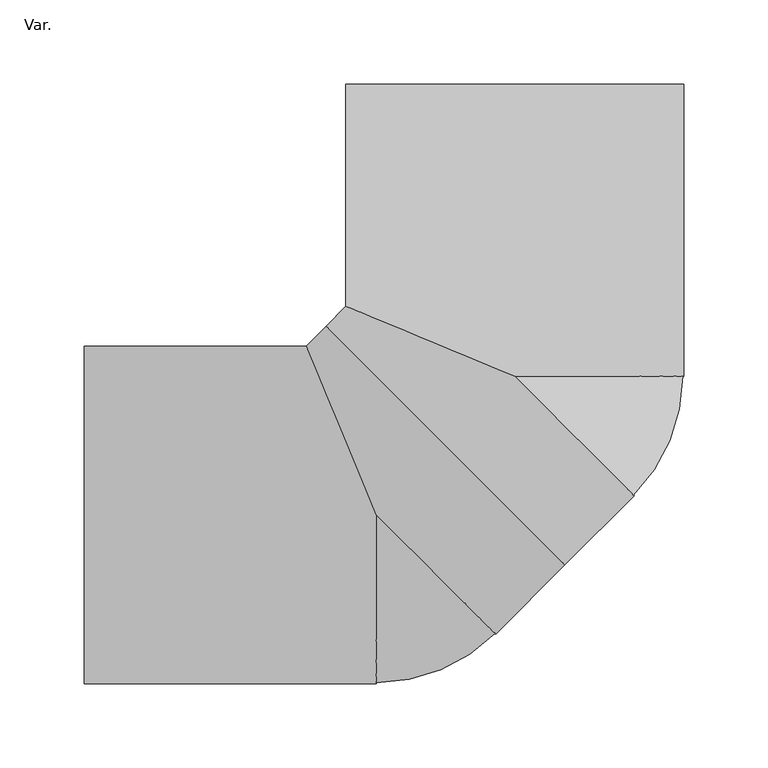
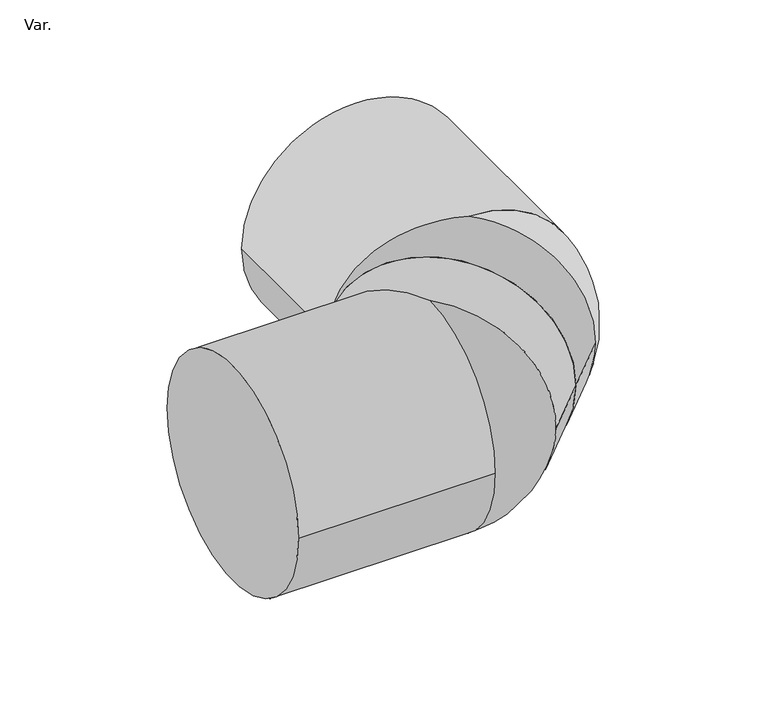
"""IFC4 building model written with IfcOpenShell, lengths in millimetres: pipe fitting geometry, PIF_HDPE assembled elbow 2x 45º_Akatherm : Var.."""

from ifc_helpers import new_model, si_unit, point, frame, origin, place, context, project, spatial, circle_curve, ellipse_curve, trimmed, source, transform, mapped, element, save
from ifc_brep_helpers import plane_surface, cylinder_surface, revolved_surface, advanced_brep


def var_2f964d50(model_context):
    return source(origin(), model_context, "Body", "AdvancedBrep", [
        advanced_brep(
        [(-111.7106781, 111.7106781, 0.0), (29.7106781, -29.7106781, 0.0), (-82.0, 82.0, 57.2363521), (-82.0, 82.0, -57.2363521), (-100.0, 100.0, 0.0), (-100.0, 123.4213562, 0.0), (0.0, 82.0, -100.0), (70.7106781, 11.2893219, 0.0), (0.0, 82.0, 100.0), (-100.0, 82.0, 0.0), (100.0, 255.0, 0.0), (-100.0, 255.0, 0.0), (100.0, 82.0, 0.0)],
        [
            (0, 1, circle_curve(frame((-41.0, 41.0, 0.0), z_axis=(-0.7071067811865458, -0.7071067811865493, 0.0), x_axis=(0.7071067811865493, -0.7071067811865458, 0.0)), 100.0)),
            (1, 0, circle_curve(frame((-41.0, 41.0, 0.0), z_axis=(-0.7071067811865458, -0.7071067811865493, 0.0), x_axis=(0.7071067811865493, -0.7071067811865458, 0.0)), 100.0)),
            (2, 3),
            (3, 4, ellipse_curve(frame((0.0, 0.0, 0.0), z_axis=(0.7071067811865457, 0.7071067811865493, 0.0), x_axis=(0.7071067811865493, -0.7071067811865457, 0.0)), 141.4213562, 100.0)),
            (4, 2, ellipse_curve(frame((0.0, 0.0, 0.0), z_axis=(0.7071067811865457, 0.7071067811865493, 0.0), x_axis=(0.7071067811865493, -0.7071067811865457, 0.0)), 141.4213562, 100.0)),
            (0, 5),
            (5, 6, ellipse_curve(frame((0.0, 82.0, 0.0), z_axis=(-0.38268343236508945, -0.923879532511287, 0.0), x_axis=(0.923879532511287, -0.3826834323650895, 0.0)), 108.23922, 100.0)),
            (6, 7, circle_curve(frame((0.0, 82.0, 0.0), z_axis=(-0.7071067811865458, -0.7071067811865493, 0.0), x_axis=(0.7071067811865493, -0.7071067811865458, 0.0)), 100.0)),
            (7, 1),
            (7, 8, circle_curve(frame((0.0, 82.0, 0.0), z_axis=(-0.7071067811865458, -0.7071067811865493, 0.0), x_axis=(0.7071067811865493, -0.7071067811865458, 0.0)), 100.0)),
            (8, 5, ellipse_curve(frame((0.0, 82.0, 0.0), z_axis=(-0.38268343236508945, -0.923879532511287, 0.0), x_axis=(0.923879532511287, -0.3826834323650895, 0.0)), 108.23922, 100.0)),
            (2, 9, circle_curve(frame((0.0, 82.0, 0.0), z_axis=(0.0, -1.0, 0.0), x_axis=(-1.0, 0.0, 0.0)), 100.0)),
            (9, 3, circle_curve(frame((0.0, 82.0, 0.0), z_axis=(0.0, -1.0, 0.0), x_axis=(-1.0, 0.0, 0.0)), 100.0)),
            (10, 11, circle_curve(frame((0.0, 255.0, 0.0), z_axis=(0.0, 1.0, 0.0), x_axis=(-1.0, 0.0, 0.0)), 100.0)),
            (11, 10, circle_curve(frame((0.0, 255.0, 0.0), z_axis=(0.0, 1.0, 0.0), x_axis=(-1.0, 0.0, 0.0)), 100.0)),
            (4, 9),
            (11, 5),
            (8, 12, circle_curve(frame((0.0, 82.0, 0.0), z_axis=(0.0, 1.0, 0.0), x_axis=(-1.0, 0.0, 0.0)), 100.0)),
            (12, 10),
            (12, 6, circle_curve(frame((0.0, 82.0, 0.0), z_axis=(0.0, 1.0, 0.0), x_axis=(-1.0, 0.0, 0.0)), 100.0)),
        ],
        [
            plane_surface(frame((-41.0, 41.0, 0.0), z_axis=(-0.7071067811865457, -0.7071067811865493, 0.0), x_axis=(0.0, 0.0, 1.0))),
            cylinder_surface(frame((0.0, 82.0, 0.0), z_axis=(0.7071067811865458, 0.7071067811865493, 0.0), x_axis=(0.7071067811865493, -0.7071067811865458, 0.0)), 100.0),
            plane_surface(frame((0.0, 82.0, 0.0), z_axis=(0.0, -1.0, 0.0), x_axis=(0.0, 0.0, 1.0))),
            plane_surface(frame((0.0, 255.0, 0.0), z_axis=(0.0, 1.0, 0.0), x_axis=(0.0, 0.0, 1.0))),
            cylinder_surface(frame((0.0, 82.0, 0.0), z_axis=(0.0, -1.0, 0.0), x_axis=(-1.0, 0.0, 0.0)), 100.0),
            revolved_surface(trimmed(ellipse_curve(frame((0.0, 82.0, 0.0), z_axis=(0.0, 1.0, 0.0), x_axis=(1.0, 0.0, 0.0)), 100.0, 100.0), [point((0.0, 82.0, 100.0))], [point((0.0, 82.0, -100.0))], True, "CARTESIAN"), (0.0, 82.0, -202.5503006), (0.0, 0.0, -1.0)),
        ],
        [
            (0, [[1, 2], [3, 4, 5]]),
            (1, [[-1, 6, 7, 8, 9]]),
            (1, [[-2, -9, 10, 11, -6]]),
            (2, [[12, 13, -3]]),
            (3, [[14, 15]]),
            (4, [[-12, -5, 16]]),
            (4, [[-15, 17, -11, 18, 19]]),
            (4, [[-13, -16, -4]]),
            (4, [[-14, -19, 20, -7, -17]]),
            (5, [[-8, -20, -18, -10]]),
        ],
    ),
        advanced_brep(
        [(29.7106781, -29.7106781, 0.0), (-111.7106781, 111.7106781, 0.0), (-82.0, 82.0, -57.2363521), (-82.0, 82.0, 57.2363521), (-100.0, 100.0, 0.0), (-123.4213562, 100.0, 0.0), (-82.0, 0.0, 100.0), (-11.2893219, -70.7106781, 0.0), (-82.0, 0.0, -100.0), (-255.0, -100.0, 0.0), (-255.0, 100.0, 0.0), (-82.0, 100.0, 0.0), (-82.0, -100.0, 0.0)],
        [
            (0, 1, circle_curve(frame((-41.0, 41.0, 0.0), z_axis=(0.7071067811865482, 0.7071067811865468, 0.0), x_axis=(-0.7071067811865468, 0.7071067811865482, 0.0)), 100.0)),
            (1, 0, circle_curve(frame((-41.0, 41.0, 0.0), z_axis=(0.7071067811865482, 0.7071067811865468, 0.0), x_axis=(-0.7071067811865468, 0.7071067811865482, 0.0)), 100.0)),
            (2, 3),
            (3, 4, ellipse_curve(frame((0.0, 0.0, 0.0), z_axis=(-0.7071067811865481, -0.7071067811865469, 0.0), x_axis=(-0.7071067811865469, 0.7071067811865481, 0.0)), 141.4213562, 100.0)),
            (4, 2, ellipse_curve(frame((0.0, 0.0, 0.0), z_axis=(-0.7071067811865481, -0.7071067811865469, 0.0), x_axis=(-0.7071067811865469, 0.7071067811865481, 0.0)), 141.4213562, 100.0)),
            (1, 5),
            (5, 6, ellipse_curve(frame((-82.0, 0.0, 0.0), z_axis=(0.9238795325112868, 0.3826834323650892, 0.0), x_axis=(0.3826834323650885, -0.9238795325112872, 0.0)), 108.23922, 100.0)),
            (6, 7, circle_curve(frame((-82.0, 0.0, 0.0), z_axis=(0.7071067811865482, 0.7071067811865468, 0.0), x_axis=(-0.7071067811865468, 0.7071067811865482, 0.0)), 100.0)),
            (7, 0),
            (7, 8, circle_curve(frame((-82.0, 0.0, 0.0), z_axis=(0.7071067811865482, 0.7071067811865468, 0.0), x_axis=(-0.7071067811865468, 0.7071067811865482, 0.0)), 100.0)),
            (8, 5, ellipse_curve(frame((-82.0, 0.0, 0.0), z_axis=(0.9238795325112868, 0.3826834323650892, 0.0), x_axis=(0.3826834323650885, -0.9238795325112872, 0.0)), 108.23922, 100.0)),
            (9, 10, circle_curve(frame((-255.0, 0.0, 0.0), z_axis=(-1.0, 0.0, 0.0), x_axis=(0.0, 1.0, 0.0)), 100.0)),
            (10, 9, circle_curve(frame((-255.0, 0.0, 0.0), z_axis=(-1.0, 0.0, 0.0), x_axis=(0.0, 1.0, 0.0)), 100.0)),
            (2, 11, circle_curve(frame((-82.0, 0.0, 0.0), z_axis=(1.0, 0.0, 0.0), x_axis=(0.0, 1.0, 0.0)), 100.0)),
            (11, 3, circle_curve(frame((-82.0, 0.0, 0.0), z_axis=(1.0, 0.0, 0.0), x_axis=(0.0, 1.0, 0.0)), 100.0)),
            (9, 12),
            (12, 6, circle_curve(frame((-82.0, 0.0, 0.0), z_axis=(-1.0, 0.0, 0.0), x_axis=(0.0, 1.0, 0.0)), 100.0)),
            (5, 10),
            (11, 4),
            (8, 12, circle_curve(frame((-82.0, 0.0, 0.0), z_axis=(-1.0, 0.0, 0.0), x_axis=(0.0, 1.0, 0.0)), 100.0)),
        ],
        [
            plane_surface(frame((-41.0, 41.0, 0.0), z_axis=(0.7071067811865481, 0.7071067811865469, 0.0), x_axis=(0.0, 0.0, 1.0))),
            cylinder_surface(frame((-82.0, 0.0, 0.0), z_axis=(-0.7071067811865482, -0.7071067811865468, 0.0), x_axis=(-0.7071067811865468, 0.7071067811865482, 0.0)), 100.0),
            plane_surface(frame((-255.0, 0.0, 0.0), z_axis=(-1.0, 0.0, 0.0), x_axis=(0.0, 0.0, 1.0))),
            plane_surface(frame((-82.0, 0.0, 0.0), z_axis=(1.0, 0.0, 0.0), x_axis=(0.0, 0.0, 1.0))),
            cylinder_surface(frame((-255.0, 0.0, 0.0), z_axis=(-1.0, 0.0, 0.0), x_axis=(0.0, 1.0, 0.0)), 100.0),
            revolved_surface(trimmed(ellipse_curve(frame((-82.0, 0.0, 0.0), z_axis=(-1.0, 0.0, 0.0), x_axis=(0.0, -1.0, 0.0)), 100.0, 100.0), [point((-82.0, 0.0, -100.0))], [point((-82.0, 0.0, 100.0))], True, "CARTESIAN"), (-82.0, 0.0, -270.0), (0.0, 0.0, 1.0)),
        ],
        [
            (0, [[1, 2], [3, 4, 5]]),
            (1, [[-2, 6, 7, 8, 9]]),
            (1, [[-1, -9, 10, 11, -6]]),
            (2, [[12, 13]]),
            (3, [[14, 15, -3]]),
            (4, [[-12, 16, 17, -7, 18]]),
            (4, [[-15, 19, -4]]),
            (4, [[-13, -18, -11, 20, -16]]),
            (4, [[-14, -5, -19]]),
            (5, [[-8, -17, -20, -10]]),
        ],
    ),
    ])


if __name__ == "__main__":
    model = new_model("IFC4")
    model_context = context("Model", 3, world=origin())
    ifc_project = project(units=[si_unit("LENGTHUNIT", "METRE", prefix="MILLI")], contexts=[model_context])
    site = spatial("IfcSite", under=ifc_project)
    building = spatial("IfcBuilding", under=site)
    placement = place(None, origin())
    var_shape = var_2f964d50(model_context)
    element("IfcPipeFitting", 1, ObjectType="PIF_HDPE assembled elbow 2x 45º_Akatherm : Var.", at=placement, inside=building, context=model_context, shape_type="MappedRepresentation", body=[
        mapped(var_shape, transform((0.0, 0.0, 0.0), x_axis=(1.0, 0.0, 0.0), y_axis=(0.0, 1.0, 0.0), z_axis=(0.0, 0.0, 1.0))),
    ])
    save(model, "model.ifc")
